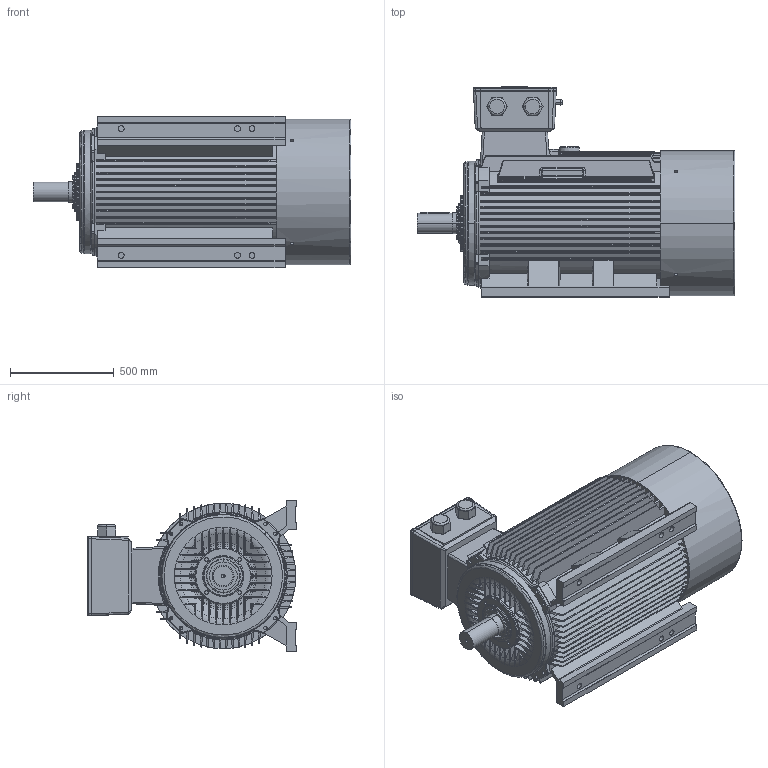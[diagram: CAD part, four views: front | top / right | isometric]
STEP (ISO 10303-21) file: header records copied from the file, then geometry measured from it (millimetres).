
FILE_DESCRIPTION((''),'2;1');
FILE_NAME('ASM0001_ASM_ASM','2016-05-20T',('tecnicocad'),(''),'PRO/ENGINEER BY PARAMETRIC TECHNOLOGY CORPORATION, 2011330','PRO/ENGINEER BY PARAMETRIC TECHNOLOGY CORPORATION, 2011330','');
FILE_SCHEMA(('AUTOMOTIVE_DESIGN_CC2 { 1 2 10303 214 -1 1 5 2 }'));
Length unit declared in the file: millimetre
Products named in the file (10): BODY355; IMPORTED1-61428; IMPORTED2-61483; B3355_ASM_ASM; SH355_4_8P; NONE; SCALE2_2_; TBOX_355_ASM_ASM; FCV355; ASM0001_ASM_ASM
Assembly tree (9 placements, depth 3):
  ASM0001_ASM_ASM
    BODY355
    B3355_ASM_ASM
      IMPORTED1-61428
      IMPORTED2-61483
    SH355_4_8P
    TBOX_355_ASM_ASM
      NONE
      SCALE2_2_
    FCV355
Bounding box: 1530 x 1010.72 x 730 mm (x, y, z)
Volume: 258364689.1 mm3; surface area: 12847337.7 mm2
Topology: 7 solids, 9 shells, 1819 faces, 4918 edges, 3184 vertices
Faces by surface type: plane 555, cylinder 504, cone 188, bspline 178, torus 173, revolution 119, extrusion 102
Entity records: 75011 total; most frequent: CARTESIAN_POINT 31989, ORIENTED_EDGE 9832, DIRECTION 7563, EDGE_CURVE 4916, VERTEX_POINT 3184, AXIS2_PLACEMENT_3D 2802, B_SPLINE_CURVE_WITH_KNOTS 2040, EDGE_LOOP 1972
